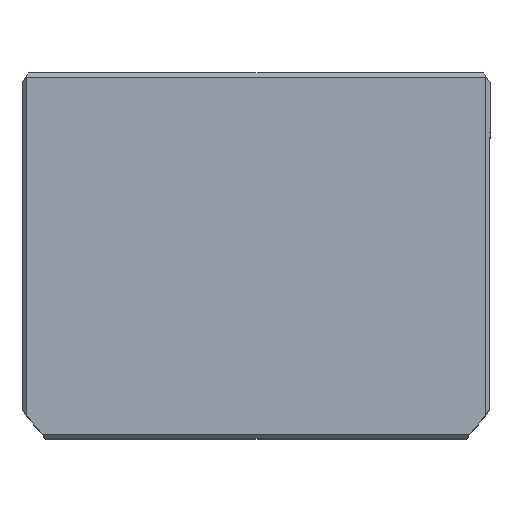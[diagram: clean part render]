
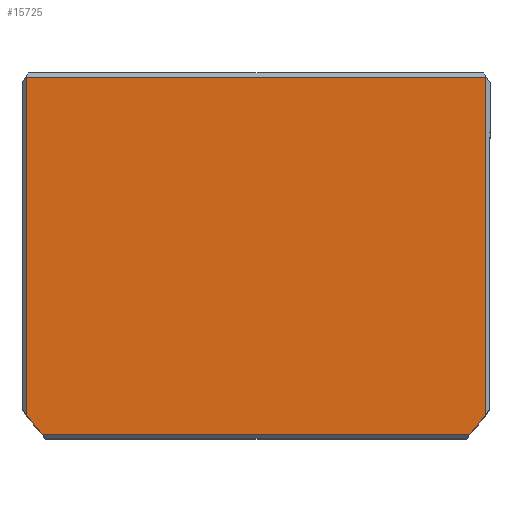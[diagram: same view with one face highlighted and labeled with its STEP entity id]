
A CAD part, top view. The second image highlights one B-rep face of the part: STEP entity #15725.
In plain terms, the highlighted planar face has unit normal (0, 0, 1) as drawn and (0, 0, -1) by its records, which use the part's own axes.
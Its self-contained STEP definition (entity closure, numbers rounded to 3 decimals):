
#198 = ORIENTED_EDGE ( 'NONE', *, *, #3445, .T. ) ;
#555 = VERTEX_POINT ( 'NONE', #1351 ) ;
#693 = CARTESIAN_POINT ( 'NONE',  ( 0., -2.5, 0. ) ) ;
#906 = DIRECTION ( 'NONE',  ( 1., 0., 0. ) ) ;
#1315 = EDGE_CURVE ( 'NONE', #4405, #22059, #7860, .T. ) ;
#1351 = CARTESIAN_POINT ( 'NONE',  ( -56., -43.5, 0. ) ) ;
#1638 = ORIENTED_EDGE ( 'NONE', *, *, #15870, .T. ) ;
#1816 = LINE ( 'NONE', #15283, #6055 ) ;
#1843 = EDGE_CURVE ( 'NONE', #7842, #555, #12396, .T. ) ;
#2100 = CARTESIAN_POINT ( 'NONE',  ( 56., -43.5, 0. ) ) ;
#2563 = PLANE ( 'NONE',  #4053 ) ;
#3445 = EDGE_CURVE ( 'NONE', #20381, #22059, #11807, .T. ) ;
#4053 = AXIS2_PLACEMENT_3D ( 'NONE', #9955, #11765, #906 ) ;
#4405 = VERTEX_POINT ( 'NONE', #8723 ) ;
#5570 = ORIENTED_EDGE ( 'NONE', *, *, #1843, .T. ) ;
#5786 = FACE_OUTER_BOUND ( 'NONE', #13767, .T. ) ;
#6055 = VECTOR ( 'NONE', #18919, 1000. ) ;
#6157 = CARTESIAN_POINT ( 'NONE',  ( 0., -43.5, 0. ) ) ;
#6720 = ORIENTED_EDGE ( 'NONE', *, *, #1315, .F. ) ;
#7021 = AXIS2_PLACEMENT_3D ( 'NONE', #18719, #7874, #20560 ) ;
#7575 = VECTOR ( 'NONE', #11964, 1000. ) ;
#7842 = VERTEX_POINT ( 'NONE', #2100 ) ;
#7860 = CIRCLE ( 'NONE', #16723, 69.5 ) ;
#7874 = DIRECTION ( 'NONE',  ( 0., 0., 1. ) ) ;
#8048 = EDGE_CURVE ( 'NONE', #20381, #9277, #23103, .T. ) ;
#8637 = CARTESIAN_POINT ( 'NONE',  ( -56., 38.661, 0. ) ) ;
#8723 = CARTESIAN_POINT ( 'NONE',  ( 56., 38.661, 0. ) ) ;
#9277 = VERTEX_POINT ( 'NONE', #8637 ) ;
#9604 = DIRECTION ( 'NONE',  ( 1., 0., 0. ) ) ;
#9955 = CARTESIAN_POINT ( 'NONE',  ( 0., 0., 0. ) ) ;
#10080 = LINE ( 'NONE', #19188, #19115 ) ;
#10393 = DIRECTION ( 'NONE',  ( 1., 0., 0. ) ) ;
#11254 = VECTOR ( 'NONE', #9604, 1000. ) ;
#11765 = DIRECTION ( 'NONE',  ( 0., 0., 1. ) ) ;
#11807 = LINE ( 'NONE', #14974, #11254 ) ;
#11964 = DIRECTION ( 'NONE',  ( -1., 0., 0. ) ) ;
#12396 = LINE ( 'NONE', #6157, #7575 ) ;
#12896 = CARTESIAN_POINT ( 'NONE',  ( -52.098, 43.5, 0. ) ) ;
#13767 = EDGE_LOOP ( 'NONE', ( #6720, #1638, #5570, #22303, #15836, #198 ) ) ;
#14715 = CARTESIAN_POINT ( 'NONE',  ( 52.098, 43.5, 0. ) ) ;
#14974 = CARTESIAN_POINT ( 'NONE',  ( 0., 43.5, 0. ) ) ;
#15283 = CARTESIAN_POINT ( 'NONE',  ( -56., 0., 0. ) ) ;
#15540 = DIRECTION ( 'NONE',  ( 0., -1., 0. ) ) ;
#15725 = ADVANCED_FACE ( 'NONE', ( #5786 ), #2563, .F. ) ;
#15836 = ORIENTED_EDGE ( 'NONE', *, *, #8048, .F. ) ;
#15870 = EDGE_CURVE ( 'NONE', #4405, #7842, #10080, .T. ) ;
#16567 = EDGE_CURVE ( 'NONE', #555, #9277, #1816, .T. ) ;
#16723 = AXIS2_PLACEMENT_3D ( 'NONE', #693, #17883, #10393 ) ;
#17883 = DIRECTION ( 'NONE',  ( 0., 0., 1. ) ) ;
#18719 = CARTESIAN_POINT ( 'NONE',  ( 0., -2.5, 0. ) ) ;
#18919 = DIRECTION ( 'NONE',  ( 0., 1., 0. ) ) ;
#19115 = VECTOR ( 'NONE', #15540, 1000. ) ;
#19188 = CARTESIAN_POINT ( 'NONE',  ( 56., 0., 0. ) ) ;
#20381 = VERTEX_POINT ( 'NONE', #12896 ) ;
#20560 = DIRECTION ( 'NONE',  ( 1., 0., 0. ) ) ;
#22059 = VERTEX_POINT ( 'NONE', #14715 ) ;
#22303 = ORIENTED_EDGE ( 'NONE', *, *, #16567, .T. ) ;
#23103 = CIRCLE ( 'NONE', #7021, 69.5 ) ;
